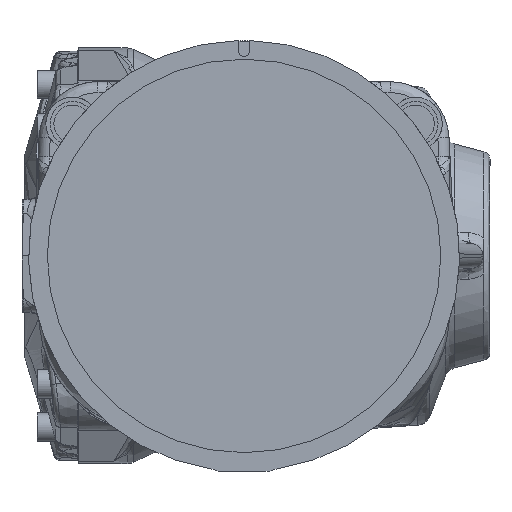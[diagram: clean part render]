
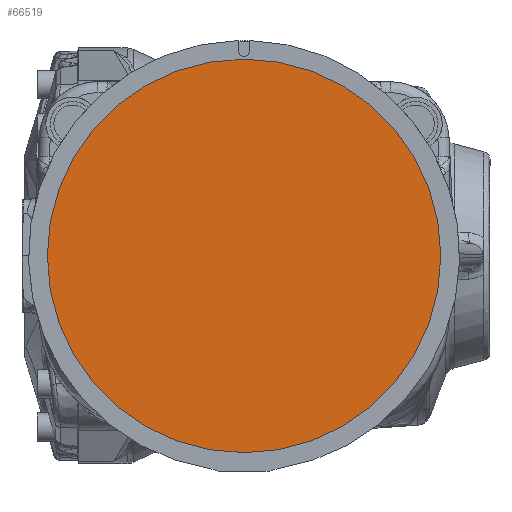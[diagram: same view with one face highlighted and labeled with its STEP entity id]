
A CAD part, left-side view. The second image highlights one B-rep face of the part: STEP entity #66519.
In plain terms, the highlighted planar face has unit normal (-1, 0, 0).
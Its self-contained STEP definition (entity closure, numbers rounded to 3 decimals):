
#29 = AXIS2_PLACEMENT_3D ( 'NONE', #9507, #51896, #15611 ) ;
#5944 = ORIENTED_EDGE ( 'NONE', *, *, #29954, .F. ) ;
#9507 = CARTESIAN_POINT ( 'NONE',  ( 437.5, 0., 1260. ) ) ;
#9833 = PLANE ( 'NONE',  #42336 ) ;
#15611 = DIRECTION ( 'NONE',  ( 0., 0., -1. ) ) ;
#15901 = EDGE_CURVE ( 'NONE', #57880, #63641, #72996, .T. ) ;
#18850 = DIRECTION ( 'NONE',  ( -1., 0., 0. ) ) ;
#28704 = EDGE_LOOP ( 'NONE', ( #75443, #5944 ) ) ;
#29954 = EDGE_CURVE ( 'NONE', #63641, #57880, #63262, .T. ) ;
#33466 = FACE_OUTER_BOUND ( 'NONE', #28704, .T. ) ;
#35518 = DIRECTION ( 'NONE',  ( 1., 0., 0. ) ) ;
#42336 = AXIS2_PLACEMENT_3D ( 'NONE', #55057, #18850, #61146 ) ;
#44540 = AXIS2_PLACEMENT_3D ( 'NONE', #71645, #35518, #77635 ) ;
#51896 = DIRECTION ( 'NONE',  ( 1., 0., 0. ) ) ;
#55057 = CARTESIAN_POINT ( 'NONE',  ( 437.5, 0., 1260. ) ) ;
#57880 = VERTEX_POINT ( 'NONE', #61335 ) ;
#60611 = CARTESIAN_POINT ( 'NONE',  ( 437.5, 0., 1330. ) ) ;
#61146 = DIRECTION ( 'NONE',  ( 0., 0., 1. ) ) ;
#61335 = CARTESIAN_POINT ( 'NONE',  ( 437.5, 0., 1190. ) ) ;
#63262 = CIRCLE ( 'NONE', #44540, 70. ) ;
#63641 = VERTEX_POINT ( 'NONE', #60611 ) ;
#66519 = ADVANCED_FACE ( 'NONE', ( #33466 ), #9833, .T. ) ;
#71645 = CARTESIAN_POINT ( 'NONE',  ( 437.5, 0., 1260. ) ) ;
#72996 = CIRCLE ( 'NONE', #29, 70. ) ;
#75443 = ORIENTED_EDGE ( 'NONE', *, *, #15901, .F. ) ;
#77635 = DIRECTION ( 'NONE',  ( 0., 0., -1. ) ) ;
